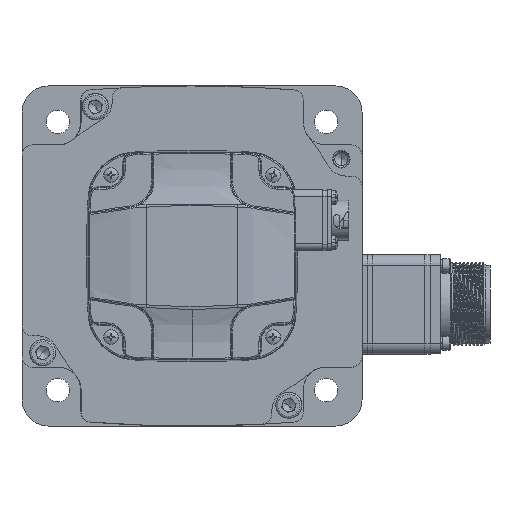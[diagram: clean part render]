
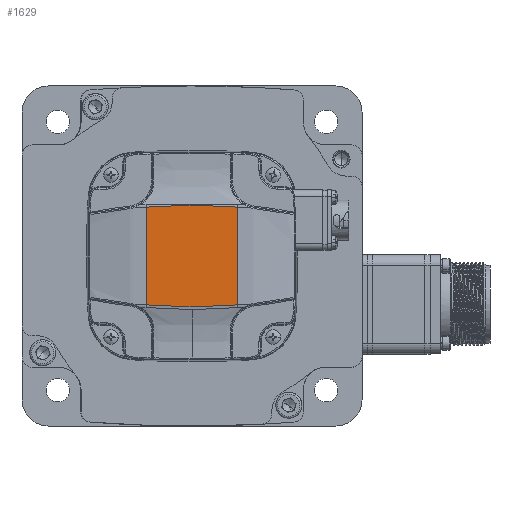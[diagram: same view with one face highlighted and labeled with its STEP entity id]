
A CAD part, front view. The second image highlights one B-rep face of the part: STEP entity #1629.
In plain terms, the highlighted planar face has unit normal (0, -1, 0).
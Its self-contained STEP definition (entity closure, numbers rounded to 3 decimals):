
#1002 = CARTESIAN_POINT ( 'NONE',  ( -17.55, 78.973, -18.738 ) ) ;
#1629 = ADVANCED_FACE ( 'NONE', ( #37912 ), #165216, .T. ) ;
#3466 = VERTEX_POINT ( 'NONE', #47837 ) ;
#7242 = CARTESIAN_POINT ( 'NONE',  ( 11.617, 78.973, 19.167 ) ) ;
#8890 = LINE ( 'NONE', #41610, #34876 ) ;
#26705 = CARTESIAN_POINT ( 'NONE',  ( 11.617, 78.973, -19.267 ) ) ;
#33158 = B_SPLINE_CURVE_WITH_KNOTS ( 'NONE', 3,
 ( #1002, #77524, #103340, #26705, #116203 ),
 .UNSPECIFIED., .F., .F.,
 ( 4, 1, 4 ),
 ( 0., 0.017, 0.035 ),
 .UNSPECIFIED. ) ;
#34876 = VECTOR ( 'NONE', #41071, 1000. ) ;
#37912 = FACE_OUTER_BOUND ( 'NONE', #154212, .T. ) ;
#41071 = DIRECTION ( 'NONE',  ( 0., 0., -1. ) ) ;
#41610 = CARTESIAN_POINT ( 'NONE',  ( 17.45, 78.973, -40.05 ) ) ;
#45800 = CARTESIAN_POINT ( 'NONE',  ( -11.717, 78.973, 19.167 ) ) ;
#46408 = ORIENTED_EDGE ( 'NONE', *, *, #50428, .F. ) ;
#47837 = CARTESIAN_POINT ( 'NONE',  ( 17.45, 78.973, -18.738 ) ) ;
#49933 = VERTEX_POINT ( 'NONE', #145921 ) ;
#50428 = EDGE_CURVE ( 'NONE', #87008, #49933, #56378, .T. ) ;
#51117 = DIRECTION ( 'NONE',  ( 0., -1., 0. ) ) ;
#52238 = ORIENTED_EDGE ( 'NONE', *, *, #134978, .T. ) ;
#54171 = CARTESIAN_POINT ( 'NONE',  ( -17.55, 78.973, -18.738 ) ) ;
#56378 = LINE ( 'NONE', #159175, #124418 ) ;
#65038 = CARTESIAN_POINT ( 'NONE',  ( 17.45, 78.973, 18.638 ) ) ;
#75693 = CARTESIAN_POINT ( 'NONE',  ( 84.7, 78.973, 11.95 ) ) ;
#75986 = AXIS2_PLACEMENT_3D ( 'NONE', #75693, #51117, #140587 ) ;
#77524 = CARTESIAN_POINT ( 'NONE',  ( -11.717, 78.973, -19.267 ) ) ;
#87008 = VERTEX_POINT ( 'NONE', #54171 ) ;
#90441 = VERTEX_POINT ( 'NONE', #65038 ) ;
#95368 = DIRECTION ( 'NONE',  ( 0., 0., 1. ) ) ;
#96697 = CARTESIAN_POINT ( 'NONE',  ( 17.45, 78.973, 18.638 ) ) ;
#103340 = CARTESIAN_POINT ( 'NONE',  ( -0.05, 78.973, -19.793 ) ) ;
#112800 = ORIENTED_EDGE ( 'NONE', *, *, #146882, .F. ) ;
#116203 = CARTESIAN_POINT ( 'NONE',  ( 17.45, 78.973, -18.738 ) ) ;
#118207 = ORIENTED_EDGE ( 'NONE', *, *, #148173, .T. ) ;
#119518 = B_SPLINE_CURVE_WITH_KNOTS ( 'NONE', 3,
 ( #96697, #7242, #122430, #45800, #135283 ),
 .UNSPECIFIED., .F., .F.,
 ( 4, 1, 4 ),
 ( 0., 0.017, 0.035 ),
 .UNSPECIFIED. ) ;
#122430 = CARTESIAN_POINT ( 'NONE',  ( -0.05, 78.973, 19.693 ) ) ;
#124418 = VECTOR ( 'NONE', #95368, 1000. ) ;
#134978 = EDGE_CURVE ( 'NONE', #90441, #49933, #119518, .T. ) ;
#135283 = CARTESIAN_POINT ( 'NONE',  ( -17.55, 78.973, 18.638 ) ) ;
#140587 = DIRECTION ( 'NONE',  ( 0., 0., -1. ) ) ;
#145921 = CARTESIAN_POINT ( 'NONE',  ( -17.55, 78.973, 18.638 ) ) ;
#146882 = EDGE_CURVE ( 'NONE', #90441, #3466, #8890, .T. ) ;
#148173 = EDGE_CURVE ( 'NONE', #87008, #3466, #33158, .T. ) ;
#154212 = EDGE_LOOP ( 'NONE', ( #112800, #52238, #46408, #118207 ) ) ;
#159175 = CARTESIAN_POINT ( 'NONE',  ( -17.55, 78.973, -40.05 ) ) ;
#165216 = PLANE ( 'NONE',  #75986 ) ;
